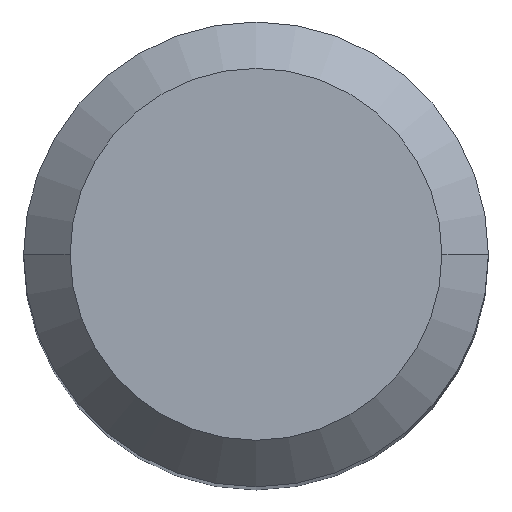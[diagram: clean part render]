
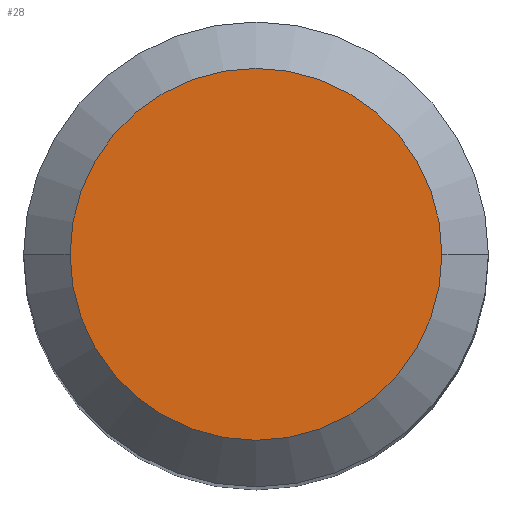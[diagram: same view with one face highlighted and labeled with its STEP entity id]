
A CAD part, top view. The second image highlights one B-rep face of the part: STEP entity #28.
In plain terms, the highlighted planar face has unit normal (0, 0, 1).
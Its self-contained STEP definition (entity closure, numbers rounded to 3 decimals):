
#28 = ADVANCED_FACE ( 'NONE', ( #463 ), #570, .T. ) ;
#41 = AXIS2_PLACEMENT_3D ( 'NONE', #336, #386, #114 ) ;
#108 = ORIENTED_EDGE ( 'NONE', *, *, #268, .F. ) ;
#114 = DIRECTION ( 'NONE',  ( -1., 0., 0. ) ) ;
#143 = DIRECTION ( 'NONE',  ( -1., 0., 0. ) ) ;
#149 = CIRCLE ( 'NONE', #41, 4. ) ;
#157 = VERTEX_POINT ( 'NONE', #619 ) ;
#189 = DIRECTION ( 'NONE',  ( 0., 0., -1. ) ) ;
#208 = CARTESIAN_POINT ( 'NONE',  ( 0., 4., 0. ) ) ;
#245 = DIRECTION ( 'NONE',  ( 0., 0., 1. ) ) ;
#254 = ORIENTED_EDGE ( 'NONE', *, *, #558, .F. ) ;
#268 = EDGE_CURVE ( 'NONE', #439, #157, #283, .T. ) ;
#283 = CIRCLE ( 'NONE', #509, 4. ) ;
#336 = CARTESIAN_POINT ( 'NONE',  ( 0., 0., 0. ) ) ;
#365 = CARTESIAN_POINT ( 'NONE',  ( 4., 0., 0. ) ) ;
#370 = CARTESIAN_POINT ( 'NONE',  ( 0., 0., 0. ) ) ;
#386 = DIRECTION ( 'NONE',  ( 0., 0., -1. ) ) ;
#439 = VERTEX_POINT ( 'NONE', #365 ) ;
#463 = FACE_OUTER_BOUND ( 'NONE', #546, .T. ) ;
#509 = AXIS2_PLACEMENT_3D ( 'NONE', #370, #189, #143 ) ;
#546 = EDGE_LOOP ( 'NONE', ( #254, #108 ) ) ;
#558 = EDGE_CURVE ( 'NONE', #157, #439, #149, .T. ) ;
#566 = AXIS2_PLACEMENT_3D ( 'NONE', #208, #245, #617 ) ;
#570 = PLANE ( 'NONE',  #566 ) ;
#617 = DIRECTION ( 'NONE',  ( 1., 0., 0. ) ) ;
#619 = CARTESIAN_POINT ( 'NONE',  ( -4., 0., 0. ) ) ;
